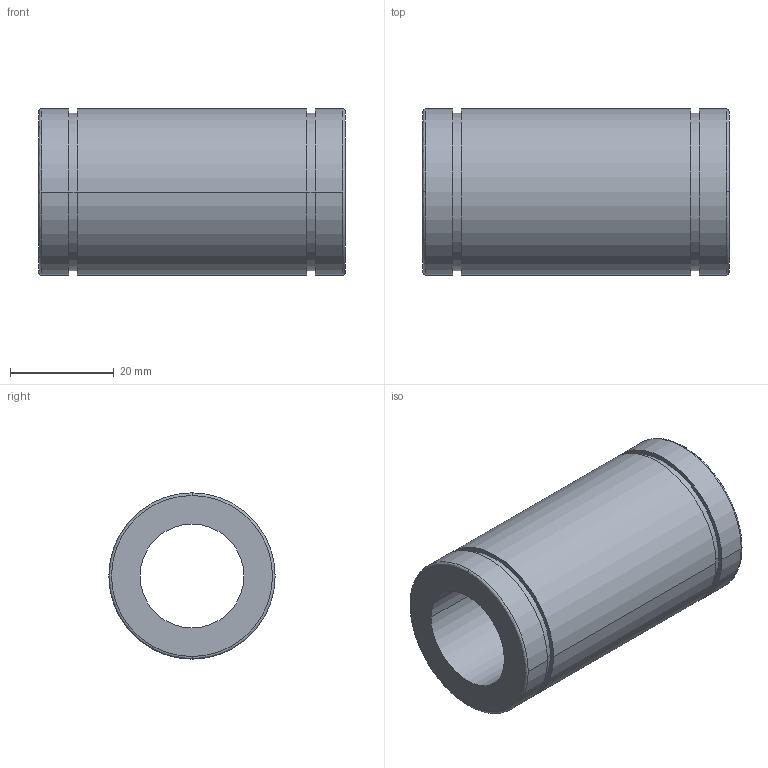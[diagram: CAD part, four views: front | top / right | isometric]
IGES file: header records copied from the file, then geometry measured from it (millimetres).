
Start section: 3D InterOp IGES (Version 21 0 1), Spatial Corp. Copyright (c) 1999-2007.
Global section: file name: N-20VM.igs; native system: Spatial Corp.; preprocessor: 3D InterOp GENERIC/IGES 3.0; author: Noname; organization: Noname; date: 20220516.092645; units: millimetre
Bounding box: 59 x 32 x 32 mm (x, y, z)
Surface area: 10890.3 mm2 (no closed solid volume)
Topology: 0 solids, 0 shells, 22 faces, 100 edges, 100 vertices
Faces by surface type: revolution 16, extrusion 6
